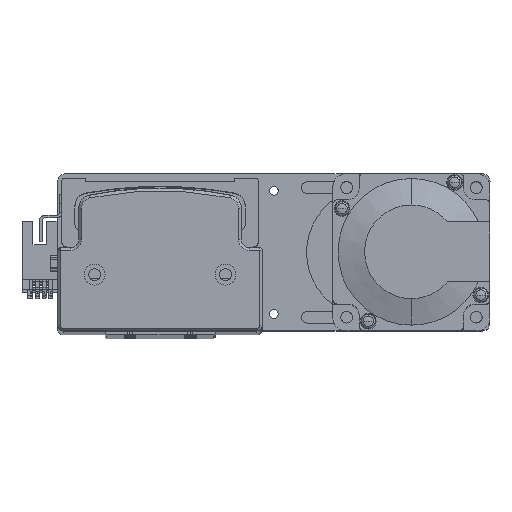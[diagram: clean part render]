
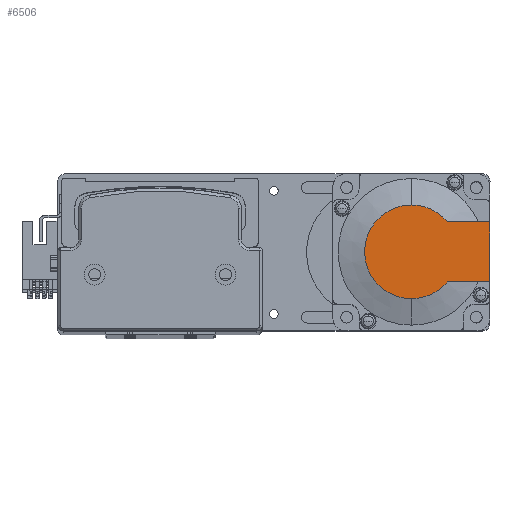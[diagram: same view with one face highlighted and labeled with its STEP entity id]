
A CAD part, top view. The second image highlights one B-rep face of the part: STEP entity #6506.
In plain terms, the highlighted planar face has unit normal (0, 0, 1) as drawn and (-1, 0, 0) by its records, which use the part's own axes.
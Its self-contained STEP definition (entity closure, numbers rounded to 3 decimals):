
#168 = CARTESIAN_POINT ( 'NONE',  ( -118.5, 0., -17.881 ) ) ;
#1982 = VERTEX_POINT ( 'NONE', #49459 ) ;
#2556 = CARTESIAN_POINT ( 'NONE',  ( -118.5, 13.735, -11.45 ) ) ;
#3097 = CARTESIAN_POINT ( 'NONE',  ( -118.5, 30., -11.45 ) ) ;
#5053 = ORIENTED_EDGE ( 'NONE', *, *, #5134, .T. ) ;
#5134 = EDGE_CURVE ( 'NONE', #39996, #25717, #26916, .T. ) ;
#5281 = LINE ( 'NONE', #24580, #47129 ) ;
#5477 = EDGE_CURVE ( 'NONE', #25717, #24959, #42822, .T. ) ;
#6506 = ADVANCED_FACE ( 'NONE', ( #13123 ), #32382, .T. ) ;
#6814 = VERTEX_POINT ( 'NONE', #3097 ) ;
#8332 = LINE ( 'NONE', #40316, #18782 ) ;
#9032 = CARTESIAN_POINT ( 'NONE',  ( -118.5, -8.941, 0. ) ) ;
#9665 = ORIENTED_EDGE ( 'NONE', *, *, #11232, .F. ) ;
#10849 = CARTESIAN_POINT ( 'NONE',  ( -118.5, 0., 0. ) ) ;
#11232 = EDGE_CURVE ( 'NONE', #1982, #12915, #8332, .T. ) ;
#12822 = DIRECTION ( 'NONE',  ( 0., -1., 0. ) ) ;
#12915 = VERTEX_POINT ( 'NONE', #24008 ) ;
#12987 = DIRECTION ( 'NONE',  ( 0., 0., 1. ) ) ;
#13123 = FACE_OUTER_BOUND ( 'NONE', #19788, .T. ) ;
#14787 = DIRECTION ( 'NONE',  ( 0., 0., -1. ) ) ;
#16693 = DIRECTION ( 'NONE',  ( 0., 0., 1. ) ) ;
#18305 = CIRCLE ( 'NONE', #34707, 17.881 ) ;
#18334 = CARTESIAN_POINT ( 'NONE',  ( -118.5, 0., 0. ) ) ;
#18391 = CARTESIAN_POINT ( 'NONE',  ( -118.5, 0., 0. ) ) ;
#18782 = VECTOR ( 'NONE', #12822, 1000. ) ;
#19788 = EDGE_LOOP ( 'NONE', ( #27965, #5053, #20574, #40441, #9665, #22098 ) ) ;
#20270 = DIRECTION ( 'NONE',  ( 0., -1., 0. ) ) ;
#20574 = ORIENTED_EDGE ( 'NONE', *, *, #5477, .T. ) ;
#22098 = ORIENTED_EDGE ( 'NONE', *, *, #38716, .F. ) ;
#22243 = DIRECTION ( 'NONE',  ( 0., 0., -1. ) ) ;
#22292 = DIRECTION ( 'NONE',  ( 0., 0., -1. ) ) ;
#24008 = CARTESIAN_POINT ( 'NONE',  ( -118.5, 13.735, 11.45 ) ) ;
#24580 = CARTESIAN_POINT ( 'NONE',  ( -118.5, 30., 25. ) ) ;
#24656 = VECTOR ( 'NONE', #20270, 1000. ) ;
#24959 = VERTEX_POINT ( 'NONE', #46211 ) ;
#25717 = VERTEX_POINT ( 'NONE', #168 ) ;
#26916 = CIRCLE ( 'NONE', #45366, 17.881 ) ;
#27965 = ORIENTED_EDGE ( 'NONE', *, *, #43243, .T. ) ;
#28207 = CARTESIAN_POINT ( 'NONE',  ( -118.5, -8.941, -11.45 ) ) ;
#32382 = PLANE ( 'NONE',  #34920 ) ;
#34707 = AXIS2_PLACEMENT_3D ( 'NONE', #10849, #38311, #14787 ) ;
#34920 = AXIS2_PLACEMENT_3D ( 'NONE', #9032, #36508, #12987 ) ;
#36345 = LINE ( 'NONE', #28207, #24656 ) ;
#36508 = DIRECTION ( 'NONE',  ( -1., 0., 0. ) ) ;
#38162 = AXIS2_PLACEMENT_3D ( 'NONE', #18391, #45855, #22292 ) ;
#38311 = DIRECTION ( 'NONE',  ( -1., 0., 0. ) ) ;
#38716 = EDGE_CURVE ( 'NONE', #6814, #1982, #5281, .T. ) ;
#39996 = VERTEX_POINT ( 'NONE', #2556 ) ;
#40316 = CARTESIAN_POINT ( 'NONE',  ( -118.5, 0., 11.45 ) ) ;
#40441 = ORIENTED_EDGE ( 'NONE', *, *, #40541, .T. ) ;
#40541 = EDGE_CURVE ( 'NONE', #24959, #12915, #18305, .T. ) ;
#42822 = CIRCLE ( 'NONE', #38162, 17.881 ) ;
#43243 = EDGE_CURVE ( 'NONE', #6814, #39996, #36345, .T. ) ;
#45366 = AXIS2_PLACEMENT_3D ( 'NONE', #18334, #45803, #22243 ) ;
#45803 = DIRECTION ( 'NONE',  ( -1., 0., 0. ) ) ;
#45855 = DIRECTION ( 'NONE',  ( -1., 0., 0. ) ) ;
#46211 = CARTESIAN_POINT ( 'NONE',  ( -118.5, 0., 17.881 ) ) ;
#47129 = VECTOR ( 'NONE', #16693, 1000. ) ;
#49459 = CARTESIAN_POINT ( 'NONE',  ( -118.5, 30., 11.45 ) ) ;
